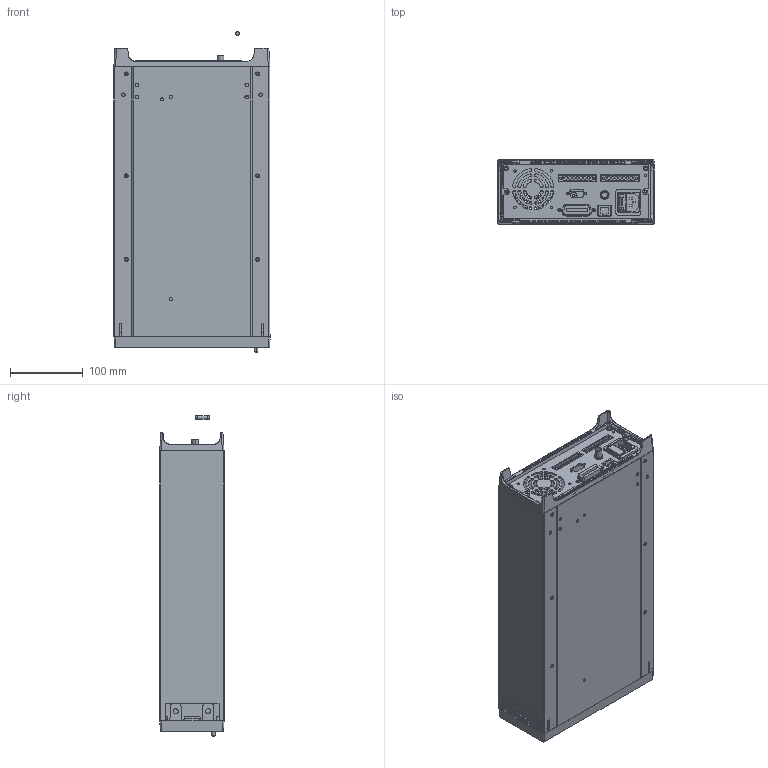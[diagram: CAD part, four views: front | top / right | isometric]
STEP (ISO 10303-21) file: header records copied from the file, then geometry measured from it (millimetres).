
FILE_DESCRIPTION((''),'2;1');
FILE_NAME('2308-ET_ASM','2015-10-05T',('jpeters'),('Keithley Instruments'),'CREO PARAMETRIC BY PTC INC, 2014440','CREO PARAMETRIC BY PTC INC, 2014440','');
FILE_SCHEMA(('CONFIG_CONTROL_DESIGN'));
Length unit declared in the file: inch
Products named in the file (15): 2306-301; 2304-305; CS-981; CS-834; 2308-ET-303; 2308-ET-304; 2308-ET-303_ASM; LF-11; 428-303; 2306-307; CS-501; 704-313; 2306-323; CS-249; 2308-ET_ASM
Assembly tree (15 placements, depth 3):
  2308-ET_ASM
    2306-301
    2304-305
    CS-981
    CS-834  x2
    2308-ET-303_ASM
      2308-ET-303
      2308-ET-304
    LF-11
    428-303
    2306-307
    CS-501
    704-313
    2306-323
    CS-249
Bounding box: 214.07 x 88.57 x 439.2 mm (x, y, z)
Volume: 631940.8 mm3; surface area: 775190.8 mm2
Topology: 14 solids, 14 shells, 5124 faces, 13880 edges, 9188 vertices
Faces by surface type: plane 4062, cylinder 724, cone 270, bspline 64, torus 2, sphere 2
Entity records: 160524 total; most frequent: CARTESIAN_POINT 31480, ORIENTED_EDGE 27408, DIRECTION 24964, EDGE_CURVE 13704, VECTOR 11692, LINE 11692, VERTEX_POINT 9072, AXIS2_PLACEMENT_3D 6636
